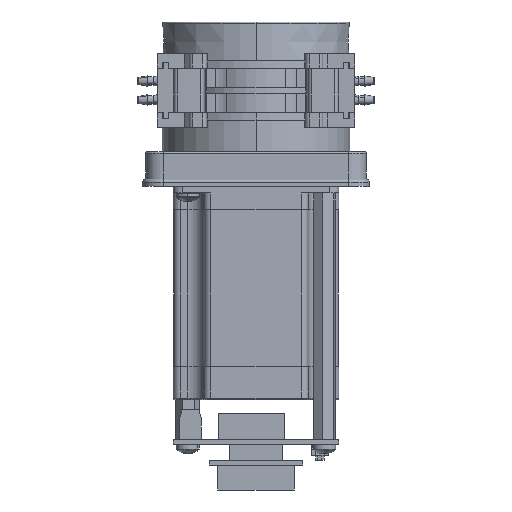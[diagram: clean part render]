
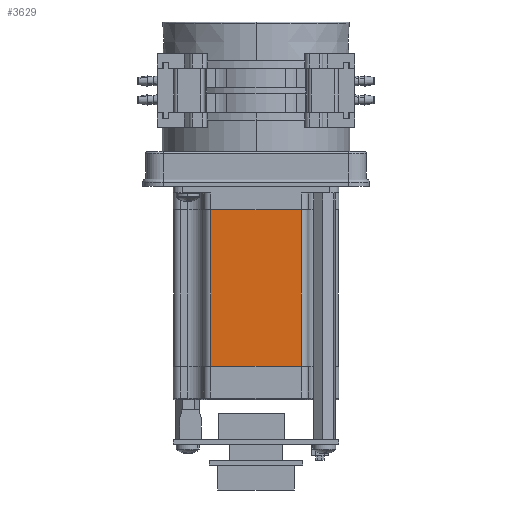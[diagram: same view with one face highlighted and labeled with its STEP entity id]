
A CAD part, left-side view. The second image highlights one B-rep face of the part: STEP entity #3629.
In plain terms, the highlighted planar face has unit normal (-1, 0, 0).
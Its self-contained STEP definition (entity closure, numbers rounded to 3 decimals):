
#490 = VECTOR ( 'NONE', #23711, 1000. ) ;
#811 = ORIENTED_EDGE ( 'NONE', *, *, #1106, .F. ) ;
#815 = FACE_OUTER_BOUND ( 'NONE', #17981, .T. ) ;
#1106 = EDGE_CURVE ( 'NONE', #28881, #31571, #32469, .T. ) ;
#2056 = LINE ( 'NONE', #28463, #27194 ) ;
#2206 = CARTESIAN_POINT ( 'NONE',  ( -28.3, 15.57, 50.01 ) ) ;
#2949 = CARTESIAN_POINT ( 'NONE',  ( -28.3, -15.57, -41.1 ) ) ;
#3629 = ADVANCED_FACE ( 'NONE', ( #815 ), #23612, .T. ) ;
#6092 = CARTESIAN_POINT ( 'NONE',  ( -28.3, -15.57, 50.01 ) ) ;
#7646 = EDGE_CURVE ( 'NONE', #23219, #17419, #8016, .T. ) ;
#7753 = CARTESIAN_POINT ( 'NONE',  ( -28.3, -15.57, -95.1 ) ) ;
#8016 = LINE ( 'NONE', #28780, #490 ) ;
#8608 = DIRECTION ( 'NONE',  ( -1., 0., 0. ) ) ;
#10630 = ORIENTED_EDGE ( 'NONE', *, *, #30210, .F. ) ;
#12230 = ORIENTED_EDGE ( 'NONE', *, *, #30505, .T. ) ;
#12308 = DIRECTION ( 'NONE',  ( 0., 0., -1. ) ) ;
#13428 = LINE ( 'NONE', #2206, #18556 ) ;
#15232 = CARTESIAN_POINT ( 'NONE',  ( -28.3, 15.57, -95.1 ) ) ;
#17190 = CARTESIAN_POINT ( 'NONE',  ( -28.3, -15.57, -95.1 ) ) ;
#17419 = VERTEX_POINT ( 'NONE', #32148 ) ;
#17841 = AXIS2_PLACEMENT_3D ( 'NONE', #6092, #8608, #26132 ) ;
#17981 = EDGE_LOOP ( 'NONE', ( #23742, #12230, #811, #10630 ) ) ;
#18489 = DIRECTION ( 'NONE',  ( 0., 0., -1. ) ) ;
#18556 = VECTOR ( 'NONE', #12308, 1000. ) ;
#23219 = VERTEX_POINT ( 'NONE', #2949 ) ;
#23612 = PLANE ( 'NONE',  #17841 ) ;
#23711 = DIRECTION ( 'NONE',  ( 0., 1., 0. ) ) ;
#23742 = ORIENTED_EDGE ( 'NONE', *, *, #7646, .T. ) ;
#25725 = VECTOR ( 'NONE', #28473, 1000. ) ;
#26132 = DIRECTION ( 'NONE',  ( 0., 0., 1. ) ) ;
#27194 = VECTOR ( 'NONE', #18489, 1000. ) ;
#28463 = CARTESIAN_POINT ( 'NONE',  ( -28.3, -15.57, 50.01 ) ) ;
#28473 = DIRECTION ( 'NONE',  ( 0., 1., 0. ) ) ;
#28780 = CARTESIAN_POINT ( 'NONE',  ( -28.3, -15.57, -41.1 ) ) ;
#28881 = VERTEX_POINT ( 'NONE', #7753 ) ;
#30210 = EDGE_CURVE ( 'NONE', #23219, #28881, #2056, .T. ) ;
#30505 = EDGE_CURVE ( 'NONE', #17419, #31571, #13428, .T. ) ;
#31571 = VERTEX_POINT ( 'NONE', #15232 ) ;
#32148 = CARTESIAN_POINT ( 'NONE',  ( -28.3, 15.57, -41.1 ) ) ;
#32469 = LINE ( 'NONE', #17190, #25725 ) ;
